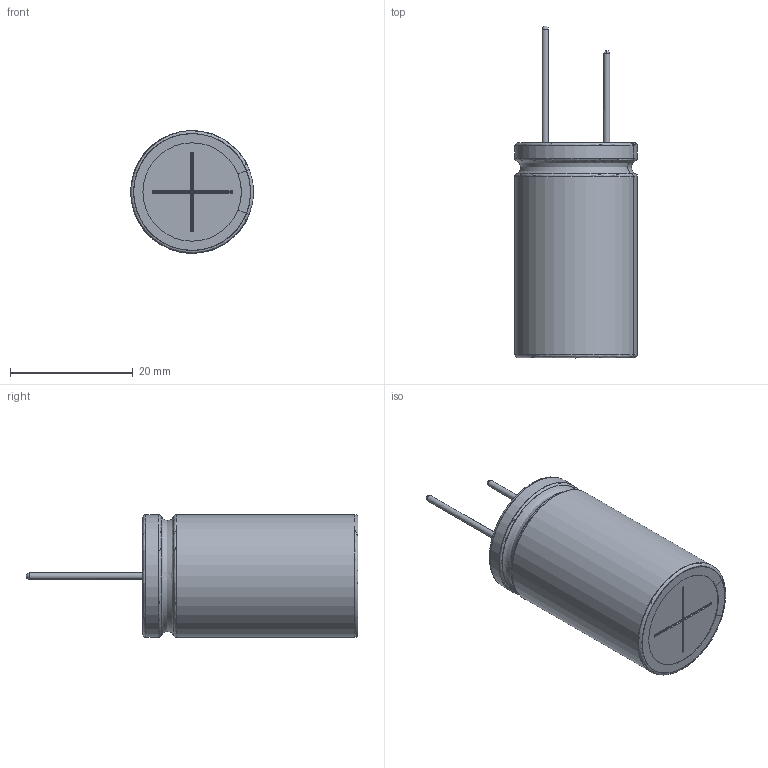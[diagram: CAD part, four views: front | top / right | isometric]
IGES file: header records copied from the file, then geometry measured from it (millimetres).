
Start section: JAMA-IS VERSION  1.0
Bounding box: 19.97 x 54 x 20 mm (x, y, z)
Surface area: 7775.7 mm2 (no closed solid volume)
Topology: 0 solids, 0 shells, 100 faces, 1336 edges, 1316 vertices
Faces by surface type: bspline 100
